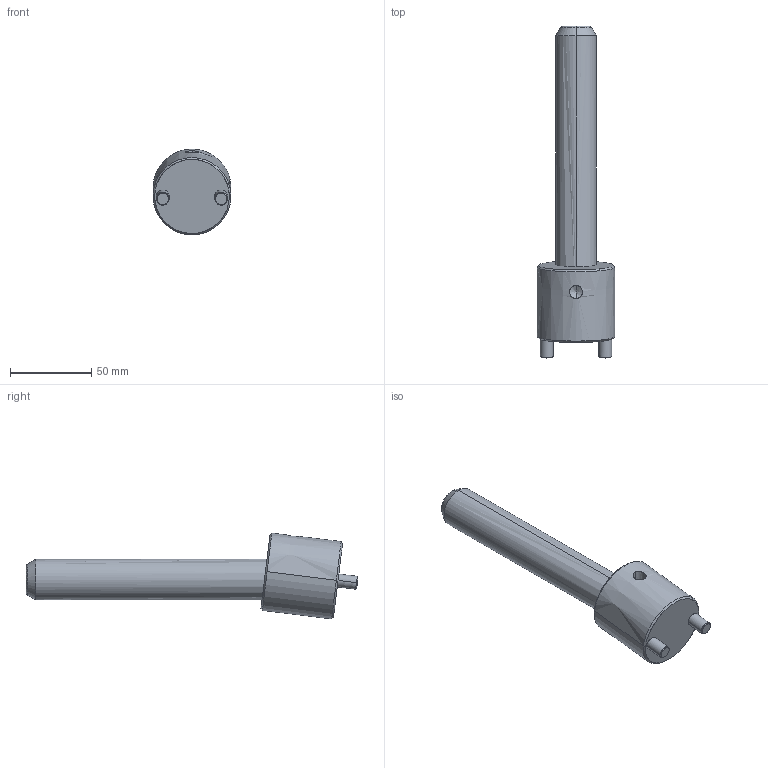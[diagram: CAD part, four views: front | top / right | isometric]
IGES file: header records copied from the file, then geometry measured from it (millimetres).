
Start section: START RECORD GO HERE.
Global section: file name: CI0725150.igs; native system: DASSAULT SYSTEMES CATIA V5 R20 - www.3ds.com; preprocessor: CATIA Version 5 Release 20 ; author: r.borello; organization: CFTORINO; date: 20190624.091030; units: millimetre
Bounding box: 48 x 204.61 x 52.88 mm (x, y, z)
Surface area: 29405.1 mm2 (no closed solid volume)
Topology: 0 solids, 0 shells, 39 faces, 162 edges, 160 vertices
Faces by surface type: revolution 32, plane 7
